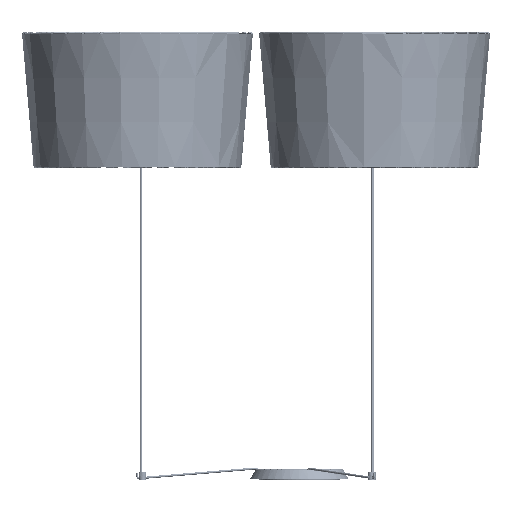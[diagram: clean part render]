
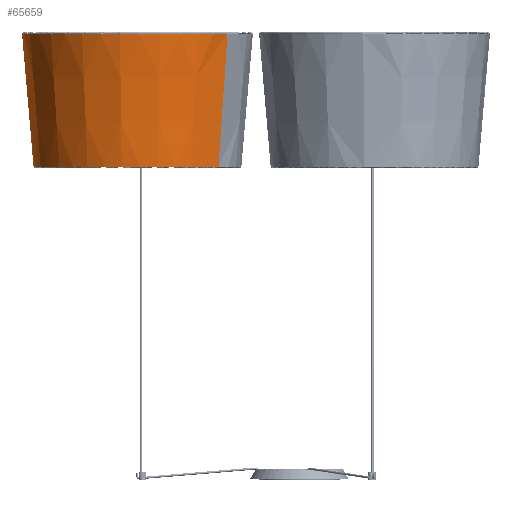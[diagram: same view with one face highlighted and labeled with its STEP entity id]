
A CAD part, left-side view. The second image highlights one B-rep face of the part: STEP entity #65659.
In plain terms, the highlighted conical face has half-angle 4.962 degrees and reference radius 317.434 mm.
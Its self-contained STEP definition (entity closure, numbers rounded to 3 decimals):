
#1766=CIRCLE('',#72680,288.541);
#1768=CIRCLE('',#72684,320.644);
#7418=LINE('',#882517,#11580);
#7419=LINE('',#882520,#11581);
#11580=VECTOR('',#82945,304.8);
#11581=VECTOR('',#82948,304.8);
#12091=CONICAL_SURFACE('',#72683,317.434,0.087);
#16807=FACE_OUTER_BOUND('',#19946,.T.);
#19946=EDGE_LOOP('',(#61336,#61337,#61338,#61339));
#37179=VERTEX_POINT('',#882190);
#37180=VERTEX_POINT('',#882351);
#37181=VERTEX_POINT('',#882516);
#37182=VERTEX_POINT('',#882518);
#48512=EDGE_CURVE('',#37180,#37179,#1766,.T.);
#48515=EDGE_CURVE('',#37181,#37179,#7418,.T.);
#48516=EDGE_CURVE('',#37182,#37181,#1768,.T.);
#48517=EDGE_CURVE('',#37180,#37182,#7419,.T.);
#61336=ORIENTED_EDGE('',*,*,#48512,.T.);
#61337=ORIENTED_EDGE('',*,*,#48515,.F.);
#61338=ORIENTED_EDGE('',*,*,#48516,.F.);
#61339=ORIENTED_EDGE('',*,*,#48517,.F.);
#65659=ADVANCED_FACE('',(#16807),#12091,.T.);
#72680=AXIS2_PLACEMENT_3D('',#882352,#82937,#82938);
#72683=AXIS2_PLACEMENT_3D('',#882515,#82943,#82944);
#72684=AXIS2_PLACEMENT_3D('',#882519,#82946,#82947);
#82937=DIRECTION('center_axis',(0.,0.,
1.));
#82938=DIRECTION('ref_axis',(0.965,0.264,0.));
#82943=DIRECTION('center_axis',(0.,0.,
1.));
#82944=DIRECTION('ref_axis',(-0.78,0.625,0.));
#82945=DIRECTION('',(0.054,0.067,-0.996));
#82946=DIRECTION('center_axis',(0.,0.,
1.));
#82947=DIRECTION('ref_axis',(0.965,0.264,0.));
#82948=DIRECTION('',(0.054,0.067,0.996));
#882190=CARTESIAN_POINT('',(-181.18,224.299,869.236));
#882351=CARTESIAN_POINT('',(179.698,674.621,869.236));
#882352=CARTESIAN_POINT('Origin',(-0.741,449.46,869.236));
#882515=CARTESIAN_POINT('Origin',(-0.741,449.46,1202.033));
#882516=CARTESIAN_POINT('',(-201.255,199.247,1239.011));
#882517=CARTESIAN_POINT('',(-201.255,199.247,1239.011));
#882518=CARTESIAN_POINT('',(199.774,699.672,1239.011));
#882519=CARTESIAN_POINT('Origin',(-0.741,449.46,1239.011));
#882520=CARTESIAN_POINT('',(179.698,674.621,869.236));
